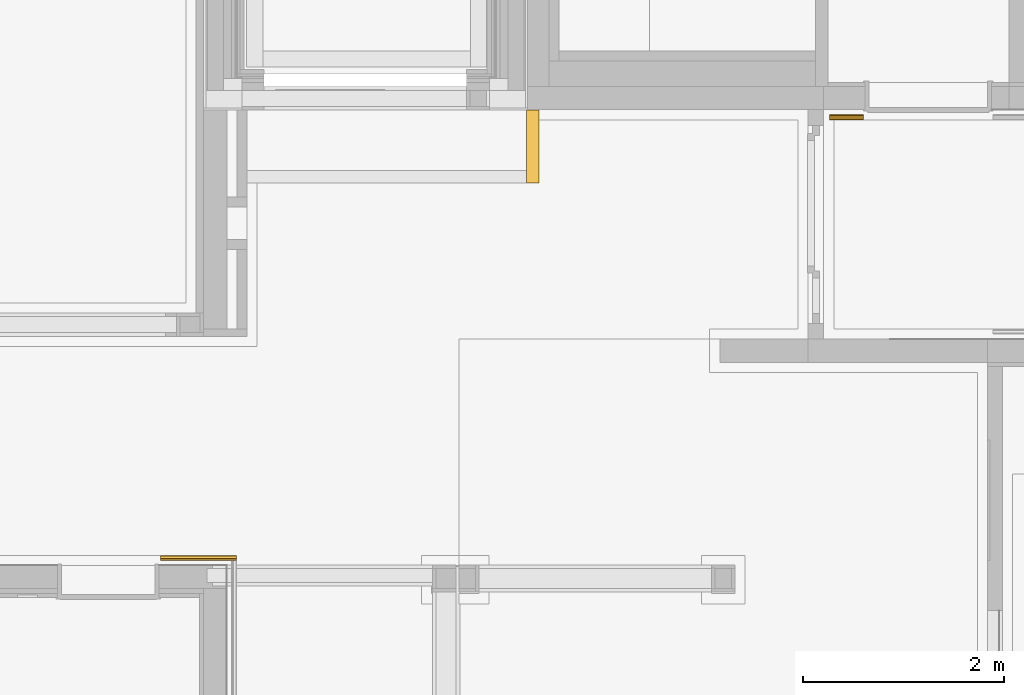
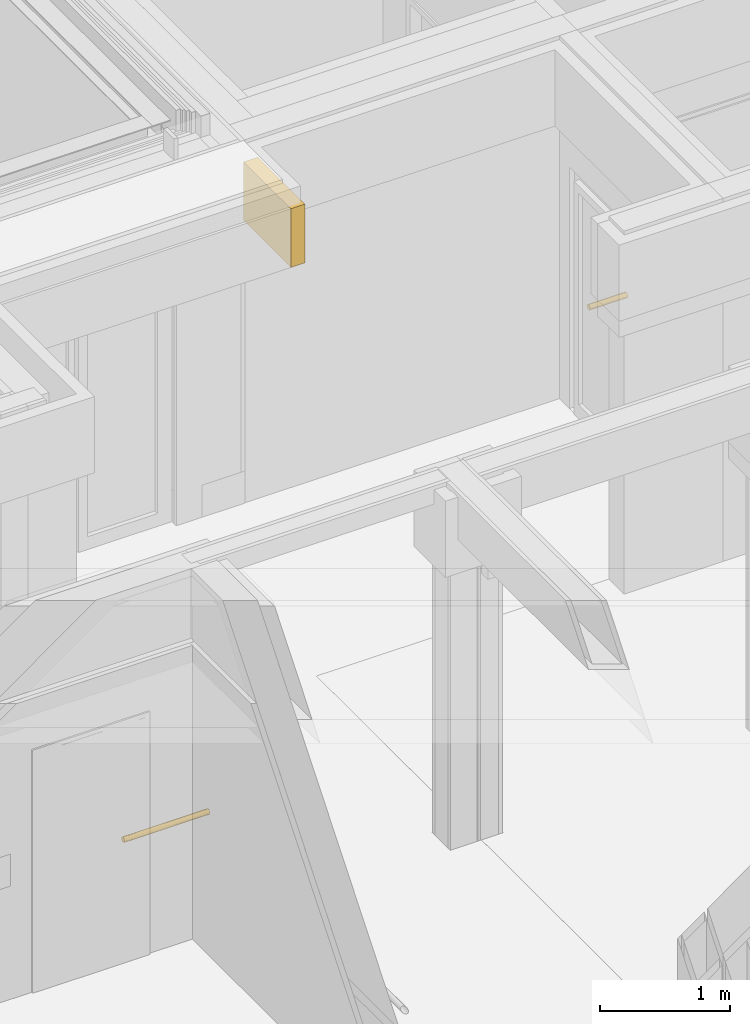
# One storey, part 206 of 207: 2 railings, 1 covering, 2 elements without a shape of their own.
"""IFC4 building model written with IfcOpenShell, lengths in metres."""

from ifc_helpers import new_model, entity, si_unit, converted_unit, derived_unit, frame, origin, place, context, subcontext, project, spatial, faceted_brep, material, element, aggregate, save


model = new_model("IFC4")

# Units and contexts
model_context = context("Model", 3, precision=1e-05, world=origin())
body_context = subcontext(model_context, "Body", "Model", "MODEL_VIEW")
ifc_project = project(units=[si_unit("LENGTHUNIT", "METRE"), si_unit("AREAUNIT", "SQUARE_METRE"), si_unit("VOLUMEUNIT", "CUBIC_METRE"), si_unit("MASSUNIT", "GRAM", prefix="KILO"), converted_unit("PLANEANGLEUNIT", "DEGREE", entity("IfcPlaneAngleMeasure", 0.0174532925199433), si_unit("PLANEANGLEUNIT", "RADIAN"), dimensions=[0, 0, 0, 0, 0, 0, 0]), derived_unit("THERMALTRANSMITTANCEUNIT", [(si_unit("POWERUNIT", "WATT"), 1), (si_unit("THERMODYNAMICTEMPERATUREUNIT", "KELVIN"), -1), (si_unit("LENGTHUNIT", "METRE"), -2)]), derived_unit("VOLUMETRICFLOWRATEUNIT", [(si_unit("LENGTHUNIT", "METRE"), 3), (converted_unit("TIMEUNIT", "hour", entity("IfcTimeMeasure", 3600.0), si_unit("TIMEUNIT", "SECOND"), dimensions=[0, 0, 1, 0, 0, 0, 0]), -1), (si_unit("LENGTHUNIT", "METRE"), -1)])], contexts=[model_context])

# Site, building, storey
site_placement = place(None, origin())
site = spatial("IfcSite", under=ifc_project, at=site_placement, Name="Psychiatrie Neubau Wunstorf", CompositionType="ELEMENT")
building_placement = place(site_placement, origin())
building = spatial("IfcBuilding", under=site, at=building_placement, Name="Neubau H2 Stationsgebäude", CompositionType="ELEMENT")
storey_placement = place(building_placement, frame((0.0, 0.0, -0.2)))
storey = spatial("IfcBuildingStorey", under=building, at=storey_placement, Name="H2 Ebene 0", CompositionType="ELEMENT", Elevation=-0.2)

# Assembly, railing
assembly_1_placement = place(storey_placement, frame((0.0, 0.0, 0.2)))
assembly_1 = element("IfcElementAssembly", 1, at=assembly_1_placement, inside=storey, Name="Geländer+Abstand", PredefinedType="NOTDEFINED")
ifc_material_1 = material(Name="Holz")
railing_1_placement = place(assembly_1_placement, frame((67.4605, 20.6359980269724, 0.8)))
railing_1 = element("IfcRailing", 2, at=railing_1_placement, material=ifc_material_1, context=body_context, shape_type="Brep", body=[
    faceted_brep([(0.757, 0.000103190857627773, 0.025), (0.757, 0.000481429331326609, 0.0293232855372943), (0.757, 0.00160465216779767, 0.0335152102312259), (0.757, 0.00343873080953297, 0.0374484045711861), (0.757, 0.00592793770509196, 0.0410033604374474), (0.757, 0.00899663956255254, 0.0440720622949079), (0.757, 0.0125515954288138, 0.0465612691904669), (0.757, 0.016484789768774, 0.0483953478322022), (0.757, 0.0206767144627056, 0.0495185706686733), (0.757, 0.0249999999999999, 0.0498968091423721), (0.757, 0.0293232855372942, 0.0495185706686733), (0.757, 0.0335152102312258, 0.0483953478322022), (0.757, 0.037448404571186, 0.0465612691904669), (0.757, 0.0410033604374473, 0.0440720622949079), (0.757, 0.0440720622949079, 0.0410033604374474), (0.757, 0.0465612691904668, 0.0374484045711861), (0.757, 0.0483953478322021, 0.0335152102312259), (0.757, 0.0495185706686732, 0.0293232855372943), (0.757, 0.049896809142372, 0.025), (0.757, 0.0495185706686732, 0.0206767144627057), (0.757, 0.0483953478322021, 0.0164847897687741), (0.757, 0.0465612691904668, 0.0125515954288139), (0.757, 0.0440720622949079, 0.00899663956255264), (0.757, 0.0410033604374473, 0.00592793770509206), (0.757, 0.037448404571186, 0.00343873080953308), (0.757, 0.0335152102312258, 0.00160465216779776), (0.757, 0.0293232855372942, 0.000481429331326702), (0.757, 0.0249999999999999, 0.000103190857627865), (0.757, 0.0206767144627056, 0.000481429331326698), (0.757, 0.016484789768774, 0.00160465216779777), (0.757, 0.0125515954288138, 0.00343873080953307), (0.757, 0.00899663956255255, 0.00592793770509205), (0.757, 0.00592793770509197, 0.00899663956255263), (0.757, 0.00343873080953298, 0.0125515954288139), (0.757, 0.00160465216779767, 0.0164847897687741), (0.757, 0.000481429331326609, 0.0206767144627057), (0.0, 0.000103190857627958, 0.025), (0.0, 0.000481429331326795, 0.0206767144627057), (0.0, 0.00160465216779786, 0.0164847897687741), (0.0, 0.00343873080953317, 0.0125515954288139), (0.0, 0.00592793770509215, 0.00899663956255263), (0.0, 0.00899663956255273, 0.00592793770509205), (0.0, 0.012551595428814, 0.00343873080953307), (0.0, 0.0164847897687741, 0.00160465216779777), (0.0, 0.0206767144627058, 0.000481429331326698), (0.0, 0.0250000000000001, 0.000103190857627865), (0.0, 0.0293232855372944, 0.000481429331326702), (0.0, 0.033515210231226, 0.00160465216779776), (0.0, 0.0374484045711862, 0.00343873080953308), (0.0, 0.0410033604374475, 0.00592793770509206), (0.0, 0.044072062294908, 0.00899663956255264), (0.0, 0.046561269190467, 0.0125515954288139), (0.0, 0.0483953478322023, 0.0164847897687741), (0.0, 0.0495185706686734, 0.0206767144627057), (0.0, 0.0498968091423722, 0.025), (0.0, 0.0495185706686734, 0.0293232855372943), (0.0, 0.0483953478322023, 0.0335152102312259), (0.0, 0.046561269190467, 0.0374484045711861), (0.0, 0.044072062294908, 0.0410033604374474), (0.0, 0.0410033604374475, 0.0440720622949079), (0.0, 0.0374484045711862, 0.0465612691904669), (0.0, 0.033515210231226, 0.0483953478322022), (0.0, 0.0293232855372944, 0.0495185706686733), (0.0, 0.0250000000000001, 0.0498968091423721), (0.0, 0.0206767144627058, 0.0495185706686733), (0.0, 0.0164847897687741, 0.0483953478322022), (0.0, 0.012551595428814, 0.0465612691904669), (0.0, 0.00899663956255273, 0.0440720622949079), (0.0, 0.00592793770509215, 0.0410033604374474), (0.0, 0.00343873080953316, 0.0374484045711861), (0.0, 0.00160465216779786, 0.0335152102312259), (0.0, 0.000481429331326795, 0.0293232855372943)], [[[0, 1, 2, 3, 4, 5, 6, 7, 8, 9, 10, 11, 12, 13, 14, 15, 16, 17, 18, 19, 20, 21, 22, 23, 24, 25, 26, 27, 28, 29, 30, 31, 32, 33, 34, 35]], [[36, 37, 38, 39, 40, 41, 42, 43, 44, 45, 46, 47, 48, 49, 50, 51, 52, 53, 54, 55, 56, 57, 58, 59, 60, 61, 62, 63, 64, 65, 66, 67, 68, 69, 70, 71]], [[1, 0, 36, 71]], [[2, 1, 71, 70]], [[3, 2, 70, 69]], [[4, 3, 69, 68]], [[5, 4, 68, 67]], [[6, 5, 67, 66]], [[7, 6, 66, 65]], [[8, 7, 65, 64]], [[9, 8, 64, 63]], [[10, 9, 63, 62]], [[11, 10, 62, 61]], [[12, 11, 61, 60]], [[13, 12, 60, 59]], [[14, 13, 59, 58]], [[15, 14, 58, 57]], [[16, 15, 57, 56]], [[17, 16, 56, 55]], [[18, 17, 55, 54]], [[19, 18, 54, 53]], [[20, 19, 53, 52]], [[21, 20, 52, 51]], [[22, 21, 51, 50]], [[23, 22, 50, 49]], [[24, 23, 49, 48]], [[25, 24, 48, 47]], [[26, 25, 47, 46]], [[27, 26, 46, 45]], [[28, 27, 45, 44]], [[29, 28, 44, 43]], [[30, 29, 43, 42]], [[31, 30, 42, 41]], [[32, 31, 41, 40]], [[33, 32, 40, 39]], [[34, 33, 39, 38]], [[35, 34, 38, 37]], [[0, 35, 37, 36]]], orient=[[False], [False], [False], [False], [False], [False], [False], [False], [False], [False], [False], [False], [False], [False], [False], [False], [False], [False], [False], [False], [False], [False], [False], [False], [False], [False], [False], [False], [False], [False], [False], [False], [False], [False], [False], [False], [False], [False]]),
])
aggregate(assembly_1, [railing_1])

assembly_2_placement = place(storey_placement, frame((0.0, 0.0, 0.2)))
assembly_2 = element("IfcElementAssembly", 3, at=assembly_2_placement, inside=storey, Name="Geländer+Abstand", PredefinedType="NOTDEFINED")
ifc_material_2 = material(Name="Holz")
railing_2_placement = place(assembly_2_placement, frame((74.115, 25.0175, 0.8)))
railing_2 = element("IfcRailing", 4, at=railing_2_placement, material=ifc_material_2, context=body_context, shape_type="Brep", body=[
    faceted_brep([(0.0, 0.0498968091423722, 0.025), (0.0, 0.0495185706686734, 0.0293232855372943), (0.0, 0.0483953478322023, 0.0335152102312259), (0.0, 0.046561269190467, 0.0374484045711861), (0.0, 0.044072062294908, 0.0410033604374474), (0.0, 0.0410033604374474, 0.0440720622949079), (0.0, 0.0374484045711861, 0.0465612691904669), (0.0, 0.033515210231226, 0.0483953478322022), (0.0, 0.0293232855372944, 0.0495185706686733), (0.0, 0.0250000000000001, 0.0498968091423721), (0.0, 0.0206767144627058, 0.0495185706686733), (0.0, 0.0164847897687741, 0.0483953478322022), (0.0, 0.012551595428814, 0.0465612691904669), (0.0, 0.00899663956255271, 0.0440720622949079), (0.0, 0.00592793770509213, 0.0410033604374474), (0.0, 0.00343873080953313, 0.0374484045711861), (0.0, 0.00160465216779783, 0.0335152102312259), (0.0, 0.000481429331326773, 0.0293232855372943), (0.0, 0.000103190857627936, 0.025), (0.0, 0.000481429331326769, 0.0206767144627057), (0.0, 0.00160465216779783, 0.0164847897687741), (0.0, 0.00343873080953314, 0.0125515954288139), (0.0, 0.00592793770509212, 0.00899663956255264), (0.0, 0.0089966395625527, 0.00592793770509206), (0.0, 0.012551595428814, 0.00343873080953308), (0.0, 0.0164847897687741, 0.00160465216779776), (0.0, 0.0206767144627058, 0.000481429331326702), (0.0, 0.0250000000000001, 0.000103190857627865), (0.0, 0.0293232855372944, 0.000481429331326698), (0.0, 0.033515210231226, 0.00160465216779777), (0.0, 0.0374484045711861, 0.00343873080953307), (0.0, 0.0410033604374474, 0.00592793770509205), (0.0, 0.044072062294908, 0.00899663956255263), (0.0, 0.046561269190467, 0.0125515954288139), (0.0, 0.0483953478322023, 0.0164847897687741), (0.0, 0.0495185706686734, 0.0206767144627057), (0.334999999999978, 0.0498968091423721, 0.025), (0.334999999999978, 0.0495185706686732, 0.0206767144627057), (0.334999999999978, 0.0483953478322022, 0.0164847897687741), (0.334999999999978, 0.0465612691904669, 0.0125515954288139), (0.334999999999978, 0.0440720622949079, 0.00899663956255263), (0.334999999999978, 0.0410033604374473, 0.00592793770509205), (0.334999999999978, 0.037448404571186, 0.00343873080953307), (0.334999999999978, 0.0335152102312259, 0.00160465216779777), (0.334999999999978, 0.0293232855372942, 0.000481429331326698), (0.334999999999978, 0.0249999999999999, 0.000103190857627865), (0.334999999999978, 0.0206767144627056, 0.000481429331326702), (0.334999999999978, 0.016484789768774, 0.00160465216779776), (0.334999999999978, 0.0125515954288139, 0.00343873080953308), (0.334999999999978, 0.00899663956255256, 0.00592793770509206), (0.334999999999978, 0.00592793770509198, 0.00899663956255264), (0.334999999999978, 0.003438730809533, 0.0125515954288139), (0.334999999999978, 0.00160465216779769, 0.0164847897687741), (0.334999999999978, 0.000481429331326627, 0.0206767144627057), (0.334999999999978, 0.000103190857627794, 0.025), (0.334999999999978, 0.000481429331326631, 0.0293232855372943), (0.334999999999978, 0.00160465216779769, 0.0335152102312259), (0.334999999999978, 0.00343873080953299, 0.0374484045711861), (0.334999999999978, 0.00592793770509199, 0.0410033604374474), (0.334999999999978, 0.00899663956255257, 0.0440720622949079), (0.334999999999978, 0.0125515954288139, 0.0465612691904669), (0.334999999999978, 0.016484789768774, 0.0483953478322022), (0.334999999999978, 0.0206767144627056, 0.0495185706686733), (0.334999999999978, 0.0249999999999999, 0.0498968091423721), (0.334999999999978, 0.0293232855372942, 0.0495185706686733), (0.334999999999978, 0.0335152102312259, 0.0483953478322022), (0.334999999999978, 0.037448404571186, 0.0465612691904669), (0.334999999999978, 0.0410033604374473, 0.0440720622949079), (0.334999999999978, 0.0440720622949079, 0.0410033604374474), (0.334999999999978, 0.0465612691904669, 0.0374484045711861), (0.334999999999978, 0.0483953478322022, 0.0335152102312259), (0.334999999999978, 0.0495185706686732, 0.0293232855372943)], [[[0, 1, 2, 3, 4, 5, 6, 7, 8, 9, 10, 11, 12, 13, 14, 15, 16, 17, 18, 19, 20, 21, 22, 23, 24, 25, 26, 27, 28, 29, 30, 31, 32, 33, 34, 35]], [[36, 37, 38, 39, 40, 41, 42, 43, 44, 45, 46, 47, 48, 49, 50, 51, 52, 53, 54, 55, 56, 57, 58, 59, 60, 61, 62, 63, 64, 65, 66, 67, 68, 69, 70, 71]], [[1, 0, 36, 71]], [[2, 1, 71, 70]], [[3, 2, 70, 69]], [[4, 3, 69, 68]], [[5, 4, 68, 67]], [[6, 5, 67, 66]], [[7, 6, 66, 65]], [[8, 7, 65, 64]], [[9, 8, 64, 63]], [[10, 9, 63, 62]], [[11, 10, 62, 61]], [[12, 11, 61, 60]], [[13, 12, 60, 59]], [[14, 13, 59, 58]], [[15, 14, 58, 57]], [[16, 15, 57, 56]], [[17, 16, 56, 55]], [[18, 17, 55, 54]], [[19, 18, 54, 53]], [[20, 19, 53, 52]], [[21, 20, 52, 51]], [[22, 21, 51, 50]], [[23, 22, 50, 49]], [[24, 23, 49, 48]], [[25, 24, 48, 47]], [[26, 25, 47, 46]], [[27, 26, 46, 45]], [[28, 27, 45, 44]], [[29, 28, 44, 43]], [[30, 29, 43, 42]], [[31, 30, 42, 41]], [[32, 31, 41, 40]], [[33, 32, 40, 39]], [[34, 33, 39, 38]], [[35, 34, 38, 37]], [[0, 35, 37, 36]]], orient=[[False], [False], [False], [False], [False], [False], [False], [False], [False], [False], [False], [False], [False], [False], [False], [False], [False], [False], [False], [False], [False], [False], [False], [False], [False], [False], [False], [False], [False], [False], [False], [False], [False], [False], [False], [False], [False], [False]]),
])
aggregate(assembly_2, [railing_2])

# Covering
covering_placement = place(storey_placement, frame((71.1, 24.3890036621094, 2.85)))
element("IfcCovering", 5, at=covering_placement, inside=storey, Name="a-sh Abschluss Abhangdecke", PredefinedType="CEILING", context=body_context, shape_type="Brep", body=[
    faceted_brep([(0.125, 0.725, 0.0), (0.125, 0.0, 0.0), (0.125, 0.0, 0.55), (0.125, 0.725, 0.55), (0.0, 0.0, 0.0), (0.0, 0.0, 0.55), (0.0, 0.725, 0.0), (0.0, 0.725, 0.55)], [[[0, 1, 2, 3]], [[1, 4, 5, 2]], [[4, 6, 7, 5]], [[6, 0, 3, 7]], [[7, 3, 2, 5]], [[0, 6, 4, 1]]], orient=[[False], [False], [False], [False], [False], [False]]),
])

save(model, "model.ifc")
